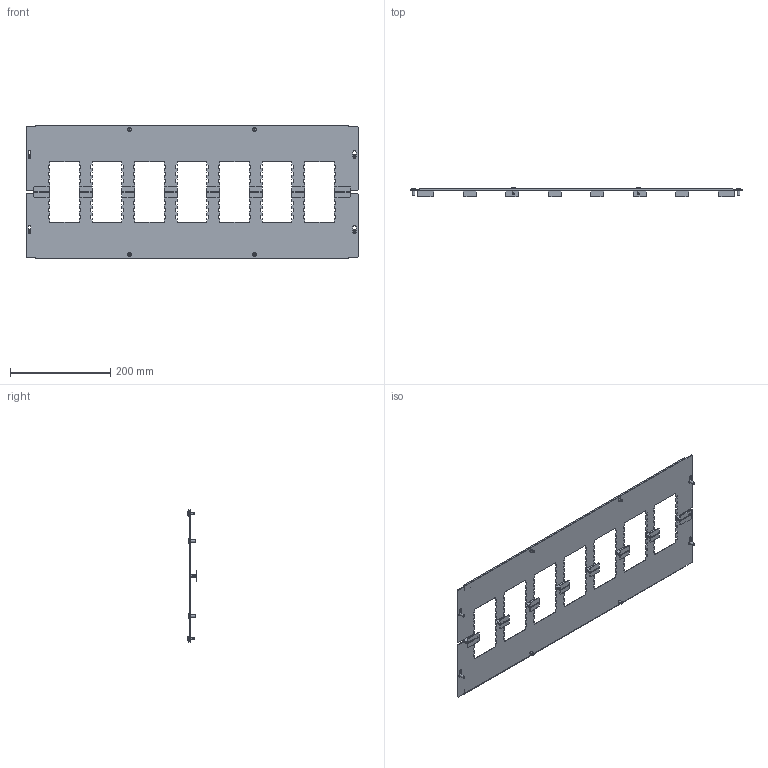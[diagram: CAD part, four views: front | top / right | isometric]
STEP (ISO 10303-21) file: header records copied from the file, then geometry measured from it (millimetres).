
FILE_DESCRIPTION(('Open CASCADE Model'),'2;1');
FILE_NAME('Open CASCADE Shape Model','2025-02-21T14:48:44',('Author'),( 'Open CASCADE'),'Open CASCADE STEP processor 7.8','Open CASCADE 7.8' ,'Unknown');
FILE_SCHEMA(('AUTOMOTIVE_DESIGN { 1 0 10303 214 1 1 1 1 }'));
Length unit declared in the file: millimetre
Products named in the file (4): Compound1; Solid1; Solid2; Solid3
Assembly tree (10 placements, depth 2):
  Compound1
    Solid1  x2
    Solid2  x4
    Solid3  x4
Bounding box: 664 x 19.31 x 265 mm (x, y, z)
Volume: 223920.8 mm3; surface area: 307157.4 mm2
Topology: 10 solids, 10 shells, 928 faces, 2632 edges, 1716 vertices
Faces by surface type: plane 836, cylinder 32, cone 20, sphere 16, torus 16, bspline 8
Full cylindrical faces by diameter (mm): 4.8 x4, 5 x4, 6 x4, 7 x4, 9.5 x8
Entity records: 14644 total; most frequent: CARTESIAN_POINT 3290, ORIENTED_EDGE 2474, DIRECTION 2122, EDGE_CURVE 1237, LINE 1152, VECTOR 1152, VERTEX_POINT 819, AXIS2_PLACEMENT_3D 485
